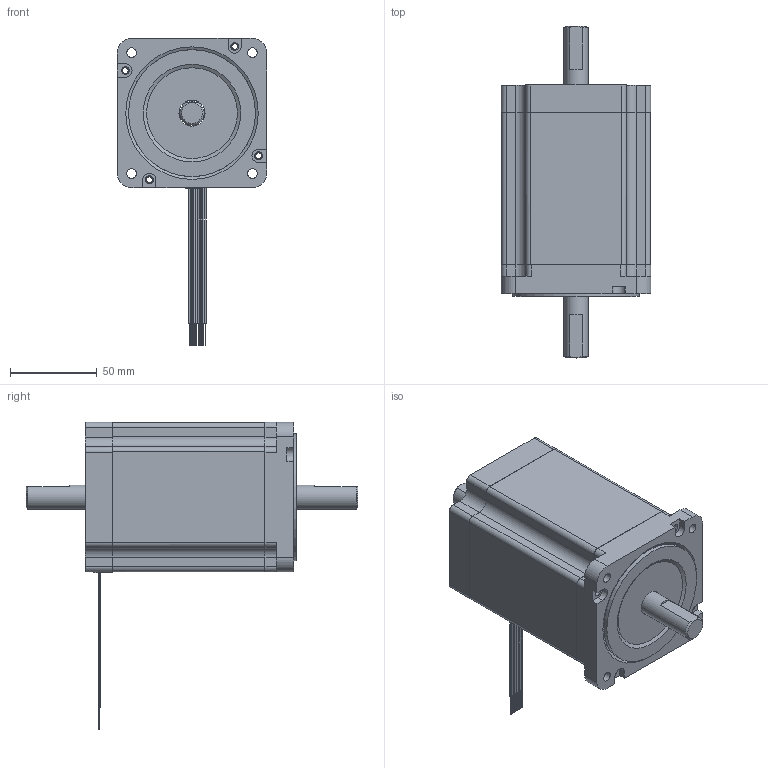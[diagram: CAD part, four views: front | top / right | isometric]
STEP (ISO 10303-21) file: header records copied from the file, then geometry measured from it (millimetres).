
FILE_DESCRIPTION( ('This file contains a STEP AP42 implementation' ,'as created by ZW3D STEP Interface translator.' ,'') ,'2;1' );
FILE_NAME( '34H2120-45-4B-XXX.stp' ,'26 115.14 838', (''), ('ZWCAD Software Co.'), 'Version 1.0', 'ZW3D to STEP translator', '' );
FILE_SCHEMA(('AUTOMOTIVE_DESIGN { 1 0 10303 214 1 1 1 1 }'));
Length unit declared in the file: millimetre
Products named in the file (1): 0
Bounding box: 86 x 191 x 176.75 mm (x, y, z)
Volume: 292736 mm3; surface area: 119432.6 mm2
Topology: 6 solids, 6 shells, 305 faces, 751 edges, 493 vertices
Faces by surface type: plane 166, cylinder 134, cone 5
Full cylindrical faces by diameter (mm): 3.3 x4, 4.5 x4, 5.08 x4, 5.5 x4, 14 x1, 15 x2, 36 x1, 42 x2, 52.27 x1, 52.273 x1, 73 x1, 78.679 x1, 80 x2
Entity records: 9464 total; most frequent: DIRECTION 1642, CARTESIAN_POINT 1613, ORIENTED_EDGE 1502, EDGE_CURVE 751, AXIS2_PLACEMENT_3D 610, VERTEX_POINT 493, VECTOR 422, LINE 422
